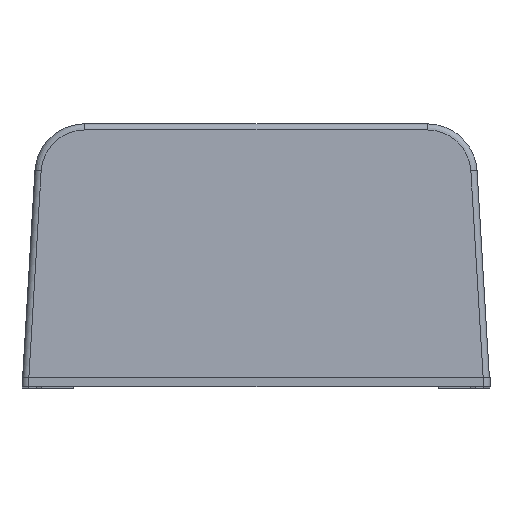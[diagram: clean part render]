
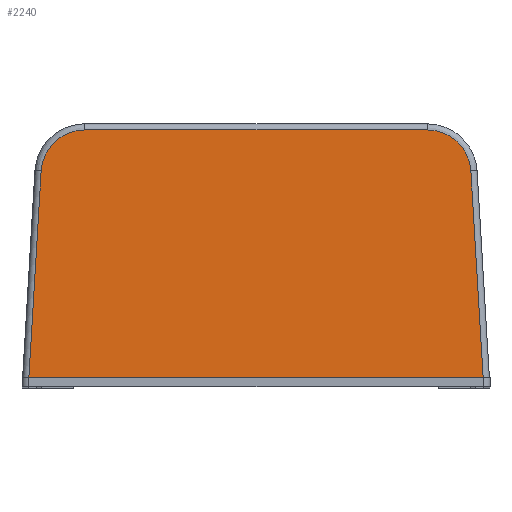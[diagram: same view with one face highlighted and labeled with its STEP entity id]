
A CAD part, top view. The second image highlights one B-rep face of the part: STEP entity #2240.
In plain terms, the highlighted planar face has unit normal (0, 0.018, 1).
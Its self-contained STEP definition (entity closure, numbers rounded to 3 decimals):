
#61 =( BOUNDED_CURVE ( )  B_SPLINE_CURVE ( 3, ( #3549, #3559, #3522, #3506 ),
 .UNSPECIFIED., .F., .F. ) 
 B_SPLINE_CURVE_WITH_KNOTS ( ( 4, 4 ),
 ( 3.142, 4.653 ),
 .UNSPECIFIED. ) 
 CURVE ( )  GEOMETRIC_REPRESENTATION_ITEM ( )  RATIONAL_B_SPLINE_CURVE ( ( 1., 0.819, 0.819, 1. ) ) 
 REPRESENTATION_ITEM ( '' )  );
#101 = LINE ( 'NONE', #2976, #3969 ) ;
#123 = VERTEX_POINT ( 'NONE', #1833 ) ;
#222 = VECTOR ( 'NONE', #3193, 1000. ) ;
#261 = LINE ( 'NONE', #2850, #3756 ) ;
#532 = EDGE_CURVE ( 'NONE', #629, #123, #61, .T. ) ;
#629 = VERTEX_POINT ( 'NONE', #3327 ) ;
#657 = EDGE_CURVE ( 'NONE', #123, #1407, #1330, .T. ) ;
#763 = EDGE_CURVE ( 'NONE', #3661, #1407, #101, .T. ) ;
#846 = EDGE_CURVE ( 'NONE', #3661, #1661, #261, .T. ) ;
#1186 = CARTESIAN_POINT ( 'NONE',  ( 34.488, 34.634, 64.889 ) ) ;
#1208 = CARTESIAN_POINT ( 'NONE',  ( 36.46, 1.5, 65.5 ) ) ;
#1274 = EDGE_CURVE ( 'NONE', #3464, #629, #3613, .T. ) ;
#1304 = EDGE_CURVE ( 'NONE', #1661, #3464, #2654, .T. ) ;
#1330 = LINE ( 'NONE', #3368, #222 ) ;
#1407 = VERTEX_POINT ( 'NONE', #2293 ) ;
#1661 = VERTEX_POINT ( 'NONE', #1186 ) ;
#1703 = CARTESIAN_POINT ( 'NONE',  ( 27.5, 41.218, 64.768 ) ) ;
#1829 = ORIENTED_EDGE ( 'NONE', *, *, #532, .T. ) ;
#1833 = CARTESIAN_POINT ( 'NONE',  ( -34.488, 34.634, 64.889 ) ) ;
#1861 = ORIENTED_EDGE ( 'NONE', *, *, #657, .T. ) ;
#1896 = ORIENTED_EDGE ( 'NONE', *, *, #763, .F. ) ;
#1910 = ORIENTED_EDGE ( 'NONE', *, *, #846, .T. ) ;
#1959 = ORIENTED_EDGE ( 'NONE', *, *, #1304, .T. ) ;
#1982 = ORIENTED_EDGE ( 'NONE', *, *, #1274, .T. ) ;
#2240 = ADVANCED_FACE ( 'NONE', ( #3561 ), #4145, .F. ) ;
#2293 = CARTESIAN_POINT ( 'NONE',  ( -36.46, 1.5, 65.5 ) ) ;
#2347 = CARTESIAN_POINT ( 'NONE',  ( 27.5, 41.218, 64.768 ) ) ;
#2348 = CARTESIAN_POINT ( 'NONE',  ( 34.488, 34.634, 64.889 ) ) ;
#2376 = CARTESIAN_POINT ( 'NONE',  ( -27.5, 41.218, 64.768 ) ) ;
#2391 = DIRECTION ( 'NONE',  ( -1., 0., 0. ) ) ;
#2395 = CARTESIAN_POINT ( 'NONE',  ( 31.41, 41.218, 64.768 ) ) ;
#2401 = CARTESIAN_POINT ( 'NONE',  ( 34.255, 38.537, 64.817 ) ) ;
#2654 =( BOUNDED_CURVE ( )  B_SPLINE_CURVE ( 3, ( #2348, #2401, #2395, #2347 ),
 .UNSPECIFIED., .F., .F. ) 
 B_SPLINE_CURVE_WITH_KNOTS ( ( 4, 4 ),
 ( 1.63, 3.142 ),
 .UNSPECIFIED. ) 
 CURVE ( )  GEOMETRIC_REPRESENTATION_ITEM ( )  RATIONAL_B_SPLINE_CURVE ( ( 1., 0.819, 0.819, 1. ) ) 
 REPRESENTATION_ITEM ( '' )  );
#2850 = CARTESIAN_POINT ( 'NONE',  ( 34.489, 34.616, 64.89 ) ) ;
#2865 = DIRECTION ( 'NONE',  ( -0.059, 0.998, -0.018 ) ) ;
#2906 = VECTOR ( 'NONE', #2391, 1000. ) ;
#2957 = DIRECTION ( 'NONE',  ( -1., 0., 0. ) ) ;
#2976 = CARTESIAN_POINT ( 'NONE',  ( 37.238, 1.5, 65.5 ) ) ;
#3193 = DIRECTION ( 'NONE',  ( -0.059, -0.998, 0.018 ) ) ;
#3327 = CARTESIAN_POINT ( 'NONE',  ( -27.5, 41.218, 64.768 ) ) ;
#3368 = CARTESIAN_POINT ( 'NONE',  ( -36.463, 1.441, 65.501 ) ) ;
#3464 = VERTEX_POINT ( 'NONE', #1703 ) ;
#3506 = CARTESIAN_POINT ( 'NONE',  ( -34.488, 34.634, 64.889 ) ) ;
#3522 = CARTESIAN_POINT ( 'NONE',  ( -34.255, 38.537, 64.817 ) ) ;
#3549 = CARTESIAN_POINT ( 'NONE',  ( -27.5, 41.218, 64.768 ) ) ;
#3559 = CARTESIAN_POINT ( 'NONE',  ( -31.41, 41.218, 64.768 ) ) ;
#3561 = FACE_OUTER_BOUND ( 'NONE', #4142, .T. ) ;
#3613 = LINE ( 'NONE', #2376, #2906 ) ;
#3661 = VERTEX_POINT ( 'NONE', #1208 ) ;
#3756 = VECTOR ( 'NONE', #2865, 1000. ) ;
#3882 = AXIS2_PLACEMENT_3D ( 'NONE', #4151, #4159, #4135 ) ;
#3969 = VECTOR ( 'NONE', #2957, 1000. ) ;
#4135 = DIRECTION ( 'NONE',  ( 0., 1., -0.018 ) ) ;
#4142 = EDGE_LOOP ( 'NONE', ( #1829, #1861, #1896, #1910, #1959, #1982 ) ) ;
#4145 = PLANE ( 'NONE',  #3882 ) ;
#4151 = CARTESIAN_POINT ( 'NONE',  ( -37.57, 1.5, 65.5 ) ) ;
#4159 = DIRECTION ( 'NONE',  ( 0., -0.018, -1. ) ) ;
